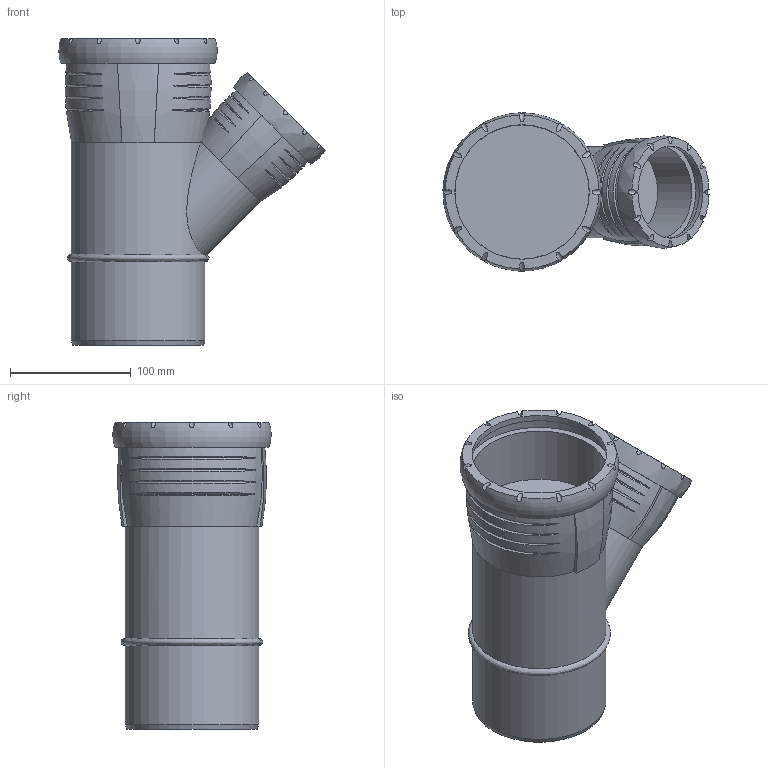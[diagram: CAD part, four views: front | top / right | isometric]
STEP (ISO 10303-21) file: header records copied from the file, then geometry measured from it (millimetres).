
FILE_DESCRIPTION(/* description */ (''),/* implementation_level */ '2;1');
FILE_NAME(/* name */ 'H:\Geberit-Teile\Export\Abzweig PP\stp\393533.stp',/* time_stamp */ '2017-02-13T13:18:32+01:00',/* author */ ('seihe2'),/* organization */ (''),/* preprocessor_version */ 'ST-DEVELOPER v15.2',/* originating_system */ 'Autodesk Inventor 2014',/* authorisation */ '');
FILE_SCHEMA (('AUTOMOTIVE_DESIGN { 1 0 10303 214 3 1 1 }'));
Length unit declared in the file: millimetre
Products named in the file (1): 393533
Bounding box: 220.1 x 130.89 x 253.35 mm (x, y, z)
Volume: 1755386.7 mm3; surface area: 249872.4 mm2
Topology: 5 solids, 5 shells, 104 faces, 242 edges, 172 vertices
Faces by surface type: bspline 46, cylinder 37, plane 19, cone 1, torus 1
Full cylindrical faces by diameter (mm): 58.903 x1, 75.2 x1, 75.9 x1, 76.2 x1, 85 x1, 90 x1, 101.2 x1, 110.2 x3, 111 x1, 111.3 x1, 121.5 x1
Entity records: 7634 total; most frequent: CARTESIAN_POINT 5503, ORIENTED_EDGE 444, DIRECTION 314, EDGE_CURVE 221, VERTEX_POINT 166, AXIS2_PLACEMENT_3D 157, EDGE_LOOP 147, B_SPLINE_CURVE_WITH_KNOTS 122
